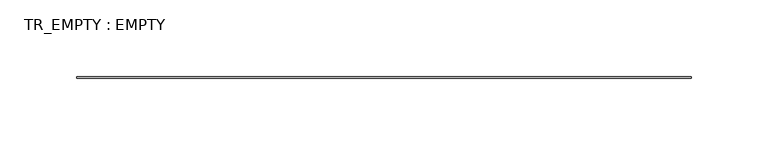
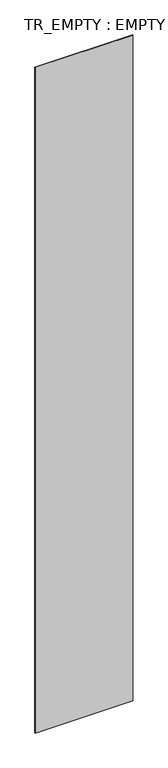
"""IFC4 building model written with IfcOpenShell, lengths in millimetres: plate geometry, TR_EMPTY : EMPTY."""

from ifc_helpers import new_model, si_unit, frame, origin, place, context, project, spatial, polyline, outline, extrude, source, transform, mapped, element, save


def tr_empty_empty_37449267(model_context):
    return source(origin(), model_context, "Body", "SweptSolid", [
        extrude(outline(polyline([(199.9999998, -31.0), (-199.9999998, -31.0), (-199.9999998, -30.0), (199.9999998, -30.0), (199.9999998, -31.0)])), frame((0.0, 0.0, 50.0), z_axis=(0.0, 0.0, 1.0), x_axis=(1.0, 0.0, 0.0)), (0.0, 0.0, 1.0), 2880.0),
    ])


if __name__ == "__main__":
    model = new_model("IFC4")
    model_context = context("Model", 3, world=origin())
    ifc_project = project(units=[si_unit("LENGTHUNIT", "METRE", prefix="MILLI")], contexts=[model_context])
    site = spatial("IfcSite", under=ifc_project)
    building = spatial("IfcBuilding", under=site)
    placement = place(None, origin())
    tr_empty_empty_shape = tr_empty_empty_37449267(model_context)
    element("IfcPlate", 1, ObjectType="TR_EMPTY : EMPTY", at=placement, inside=building, context=model_context, shape_type="MappedRepresentation", body=[
        mapped(tr_empty_empty_shape, transform((0.0, 0.0, 0.0), x_axis=(1.0, 0.0, 0.0), y_axis=(0.0, 1.0, 0.0), z_axis=(0.0, 0.0, 1.0))),
    ])
    save(model, "model.ifc")
